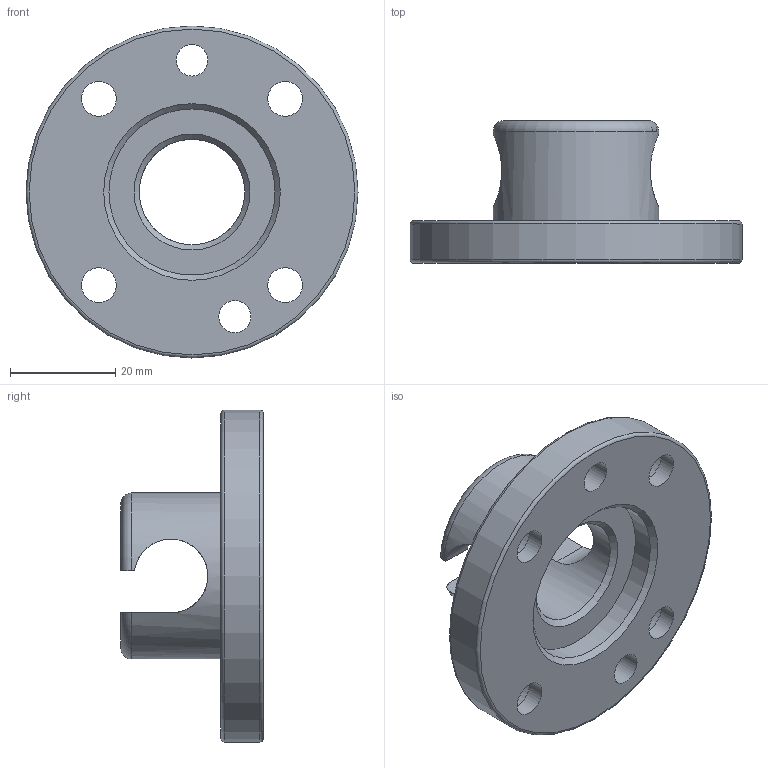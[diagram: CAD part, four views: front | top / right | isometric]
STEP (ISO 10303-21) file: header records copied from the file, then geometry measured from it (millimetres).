
FILE_DESCRIPTION(/* description */ (''),/* implementation_level */ '2;1');
FILE_NAME(/* name */ 'G-MGW063-2U-N.stp',/* time_stamp */ '2024-01-08T15:39:01+01:00',/* author */ ('ysplieth'),/* organization */ (''),/* preprocessor_version */ 'ST-DEVELOPER v20',/* originating_system */ 'Autodesk Inventor 2024',/* authorisation */ '');
FILE_SCHEMA (('AUTOMOTIVE_DESIGN { 1 0 10303 214 3 1 1 }'));
Length unit declared in the file: millimetre
Products named in the file (1): Bauteil54
Bounding box: 63 x 27 x 63 mm (x, y, z)
Volume: 23804.7 mm3; surface area: 11176.4 mm2
Topology: 1 solids, 1 shells, 37 faces, 88 edges, 58 vertices
Faces by surface type: cylinder 16, plane 13, torus 4, cone 4
Full cylindrical faces by diameter (mm): 6 x1, 6.1 x1, 6.6 x4, 11 x4, 20 x1, 31.5 x2, 63 x1
Entity records: 1319 total; most frequent: CARTESIAN_POINT 330, DIRECTION 192, ORIENTED_EDGE 176, EDGE_CURVE 88, AXIS2_PLACEMENT_3D 80, VERTEX_POINT 58, EDGE_LOOP 56, CIRCLE 42
